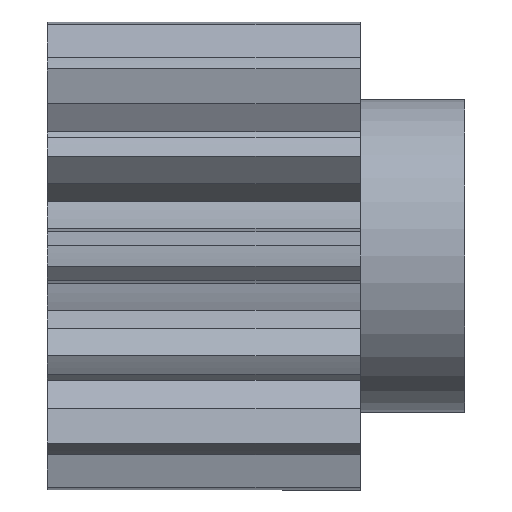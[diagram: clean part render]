
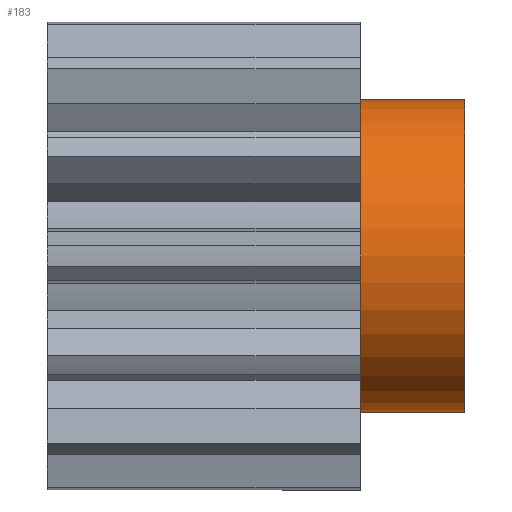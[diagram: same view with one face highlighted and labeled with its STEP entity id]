
A CAD part, front view. The second image highlights one B-rep face of the part: STEP entity #183.
In plain terms, the highlighted cylindrical face has radius 30 mm (diameter 60 mm), a partial arc.
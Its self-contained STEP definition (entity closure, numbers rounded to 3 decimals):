
#151 = EDGE_LOOP ( 'NONE', ( #306, #190, #186, #184 ) ) ;
#183 = ADVANCED_FACE ( 'NONE', ( #1280 ), #1271, .T. ) ;
#184 = ORIENTED_EDGE ( 'NONE', *, *, #1634, .T. ) ;
#186 = ORIENTED_EDGE ( 'NONE', *, *, #774, .T. ) ;
#190 = ORIENTED_EDGE ( 'NONE', *, *, #770, .T. ) ;
#306 = ORIENTED_EDGE ( 'NONE', *, *, #781, .F. ) ;
#770 = EDGE_CURVE ( 'NONE', #783, #782, #2164, .T. ) ;
#774 = EDGE_CURVE ( 'NONE', #782, #778, #2207, .T. ) ;
#778 = VERTEX_POINT ( 'NONE', #2186 ) ;
#780 = VERTEX_POINT ( 'NONE', #2196 ) ;
#781 = EDGE_CURVE ( 'NONE', #783, #780, #2193, .T. ) ;
#782 = VERTEX_POINT ( 'NONE', #2198 ) ;
#783 = VERTEX_POINT ( 'NONE', #2246 ) ;
#1232 = AXIS2_PLACEMENT_3D ( 'NONE', #1283, #1282, #1281 ) ;
#1271 = CYLINDRICAL_SURFACE ( 'NONE', #1232, 30. ) ;
#1280 = FACE_OUTER_BOUND ( 'NONE', #151, .T. ) ;
#1281 = DIRECTION ( 'NONE',  ( 0., 0., 1. ) ) ;
#1282 = DIRECTION ( 'NONE',  ( -1., 0., 0. ) ) ;
#1283 = CARTESIAN_POINT ( 'NONE',  ( 30., 0., 0. ) ) ;
#1634 = EDGE_CURVE ( 'NONE', #778, #780, #2505, .T. ) ;
#2164 = CIRCLE ( 'NONE', #2165, 30. ) ;
#2165 = AXIS2_PLACEMENT_3D ( 'NONE', #2201, #2200, #2199 ) ;
#2186 = CARTESIAN_POINT ( 'NONE',  ( 30., 0., 30. ) ) ;
#2192 = CARTESIAN_POINT ( 'NONE',  ( 30., 0., -30. ) ) ;
#2193 = LINE ( 'NONE', #2192, #2245 ) ;
#2195 = VECTOR ( 'NONE', #2205, 1000. ) ;
#2196 = CARTESIAN_POINT ( 'NONE',  ( 30., 0., -30. ) ) ;
#2198 = CARTESIAN_POINT ( 'NONE',  ( 50., 0., 30. ) ) ;
#2199 = DIRECTION ( 'NONE',  ( 0., 0., 1. ) ) ;
#2200 = DIRECTION ( 'NONE',  ( -1., 0., 0. ) ) ;
#2201 = CARTESIAN_POINT ( 'NONE',  ( 50., 0., 0. ) ) ;
#2205 = DIRECTION ( 'NONE',  ( -1., 0., 0. ) ) ;
#2206 = CARTESIAN_POINT ( 'NONE',  ( 30., 0., 30. ) ) ;
#2207 = LINE ( 'NONE', #2206, #2195 ) ;
#2244 = DIRECTION ( 'NONE',  ( -1., 0., 0. ) ) ;
#2245 = VECTOR ( 'NONE', #2244, 1000. ) ;
#2246 = CARTESIAN_POINT ( 'NONE',  ( 50., 0., -30. ) ) ;
#2505 = CIRCLE ( 'NONE', #2543, 30. ) ;
#2537 = DIRECTION ( 'NONE',  ( 0., 0., 1. ) ) ;
#2538 = DIRECTION ( 'NONE',  ( 1., 0., 0. ) ) ;
#2543 = AXIS2_PLACEMENT_3D ( 'NONE', #2544, #2538, #2537 ) ;
#2544 = CARTESIAN_POINT ( 'NONE',  ( 30., 0., 0. ) ) ;
